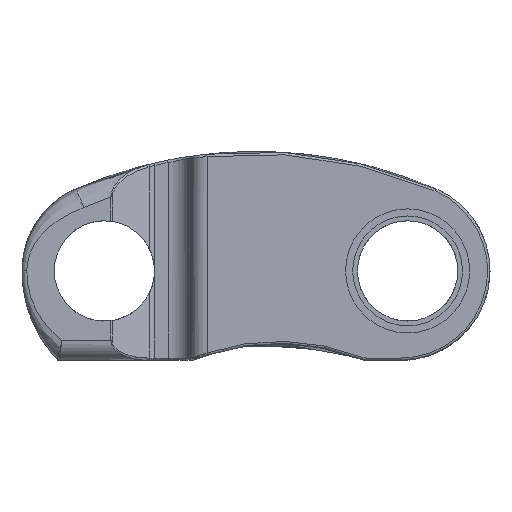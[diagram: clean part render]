
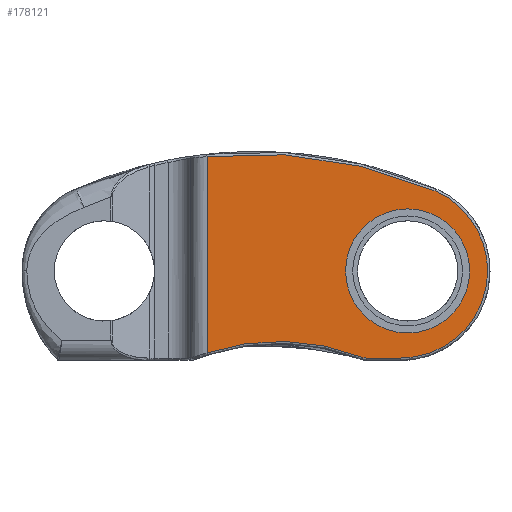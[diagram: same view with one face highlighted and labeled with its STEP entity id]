
A CAD part, left-side view. The second image highlights one B-rep face of the part: STEP entity #178121.
In plain terms, the highlighted planar face has unit normal (-1, 0, 0).
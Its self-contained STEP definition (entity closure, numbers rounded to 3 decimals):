
#52549=DIRECTION('',(0.,0.,-1.));
#52550=VECTOR('',#52549,8.219);
#52551=CARTESIAN_POINT('',(-152.4,2.05,
4.789));
#52552=LINE('',#52551,#52550);
#52553=CARTESIAN_POINT('',(-152.4,0.,-14.016));
#52554=DIRECTION('',(-1.,0.,0.));
#52555=DIRECTION('',(0.,-0.396,0.918));
#52556=AXIS2_PLACEMENT_3D('',#52553,#52554,#52555);
#52558=CARTESIAN_POINT('',(-152.4,-6.05,0.));
#52559=DIRECTION('',(-1.,0.,0.));
#52560=DIRECTION('',(0.,0.,-1.));
#52561=AXIS2_PLACEMENT_3D('',#52558,#52559,#52560);
#52563=DIRECTION('',(0.,-1.,0.));
#52564=VECTOR('',#52563,1.424);
#52565=CARTESIAN_POINT('',(-152.4,-4.626,-3.65));
#52566=LINE('',#52565,#52564);
#52567=CARTESIAN_POINT('',(-152.4,-4.626,-3.25));
#52568=DIRECTION('',(-1.,0.,0.));
#52569=DIRECTION('',(0.,0.368,-0.93));
#52570=AXIS2_PLACEMENT_3D('',#52567,#52568,#52569);
#52572=CARTESIAN_POINT('',(-152.4,-0.95,-12.55));
#52573=DIRECTION('',(1.,0.,0.));
#52574=DIRECTION('',(0.,0.313,0.95));
#52575=AXIS2_PLACEMENT_3D('',#52572,#52573,#52574);
#52577=CARTESIAN_POINT('',(-152.4,-6.35,0.));
#52578=DIRECTION('',(1.,0.,0.));
#52579=DIRECTION('',(0.,1.,0.));
#52580=AXIS2_PLACEMENT_3D('',#52577,#52578,#52579);
#52582=CARTESIAN_POINT('',(-152.4,-6.35,0.));
#52583=DIRECTION('',(1.,0.,0.));
#52584=DIRECTION('',(0.,-1.,0.));
#52585=AXIS2_PLACEMENT_3D('',#52582,#52583,#52584);
#55033=CARTESIAN_POINT('',(-152.4,2.05,
4.789));
#55034=CARTESIAN_POINT('',(-152.4,2.05,-3.431));
#55035=VERTEX_POINT('',#55033);
#55036=VERTEX_POINT('',#55034);
#56083=CARTESIAN_POINT('',(-152.4,-3.75,0.));
#56084=CARTESIAN_POINT('',(-152.4,-8.95,0.));
#56085=VERTEX_POINT('',#56083);
#56086=VERTEX_POINT('',#56084);
#58679=CARTESIAN_POINT('',(-152.4,-4.479,-3.622));
#58680=VERTEX_POINT('',#58679);
#58683=CARTESIAN_POINT('',(-152.4,-4.626,-3.65));
#58684=VERTEX_POINT('',#58683);
#58687=CARTESIAN_POINT('',(-152.4,-6.05,-3.65));
#58688=VERTEX_POINT('',#58687);
#58691=CARTESIAN_POINT('',(-152.4,-7.497,3.351));
#58692=VERTEX_POINT('',#58691);
#178101=CARTESIAN_POINT('',(-152.4,-9.8,5.));
#178102=DIRECTION('',(1.,0.,0.));
#178103=DIRECTION('',(0.,1.,0.));
#178104=AXIS2_PLACEMENT_3D('',#178101,#178102,#178103);
#178105=PLANE('',#178104);
#178107=ORIENTED_EDGE('',*,*,#178106,.F.);
#178108=ORIENTED_EDGE('',*,*,#178016,.F.);
#178109=ORIENTED_EDGE('',*,*,#178031,.F.);
#178110=ORIENTED_EDGE('',*,*,#178095,.F.);
#178111=ORIENTED_EDGE('',*,*,#150575,.F.);
#178112=ORIENTED_EDGE('',*,*,#150590,.F.);
#178113=EDGE_LOOP('',(#178107,#178108,#178109,#178110,#178111,#178112));
#178114=FACE_OUTER_BOUND('',#178113,.F.);
#178116=ORIENTED_EDGE('',*,*,#178115,.F.);
#178118=ORIENTED_EDGE('',*,*,#178117,.F.);
#178119=EDGE_LOOP('',(#178116,#178118));
#178120=FACE_BOUND('',#178119,.F.);
#178121=ADVANCED_FACE('',(#178114,#178120),#178105,.F.);
#52557=CIRCLE('',#52556,18.916);
#52562=CIRCLE('',#52561,3.65);
#52571=CIRCLE('',#52570,0.4);
#52576=CIRCLE('',#52575,9.6);
#52581=CIRCLE('',#52580,2.6);
#52586=CIRCLE('',#52585,2.6);
#150575=EDGE_CURVE('',#58680,#58684,#52571,.T.);
#150590=EDGE_CURVE('',#55036,#58680,#52576,.T.);
#178016=EDGE_CURVE('',#58692,#55035,#52557,.T.);
#178031=EDGE_CURVE('',#58688,#58692,#52562,.T.);
#178095=EDGE_CURVE('',#58684,#58688,#52566,.T.);
#178106=EDGE_CURVE('',#55035,#55036,#52552,.T.);
#178115=EDGE_CURVE('',#56085,#56086,#52581,.T.);
#178117=EDGE_CURVE('',#56086,#56085,#52586,.T.);
